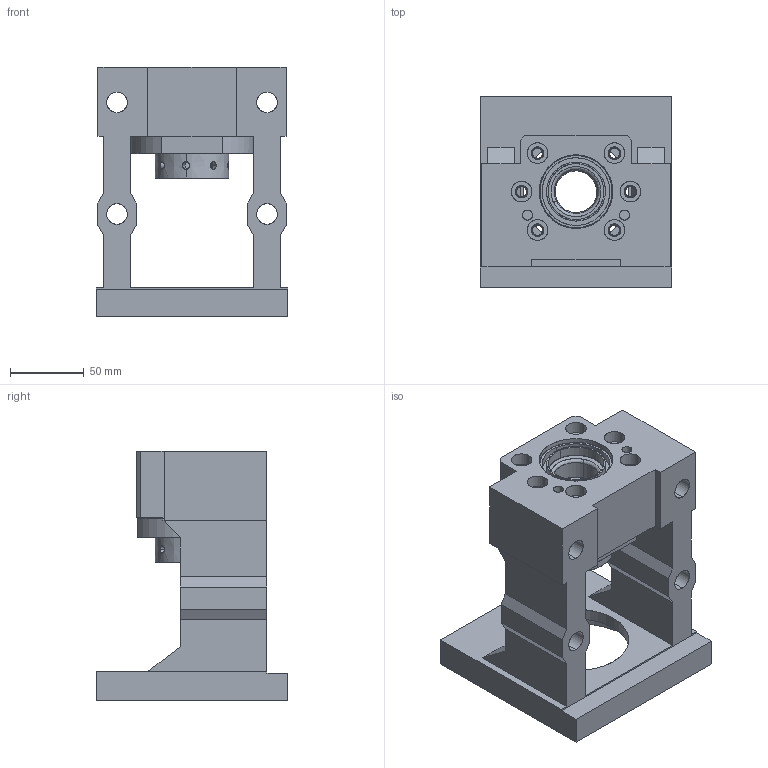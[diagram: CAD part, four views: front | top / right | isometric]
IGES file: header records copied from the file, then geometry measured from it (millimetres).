
Start section: SolidWorks IGES file using analytic representation for surfaces
Global section: file name: C:\Users\117\Desktop\MBCS30-YP.IGS; native system: SolidWorks 2018; preprocessor: SolidWorks 2018; author: 117; date: 211028.163321; units: millimetre
Bounding box: 130 x 130 x 170 mm (x, y, z)
Surface area: 144850 mm2 (no closed solid volume)
Topology: 0 solids, 0 shells, 220 faces, 4572 edges, 4568 vertices
Faces by surface type: revolution 133, bspline 87
